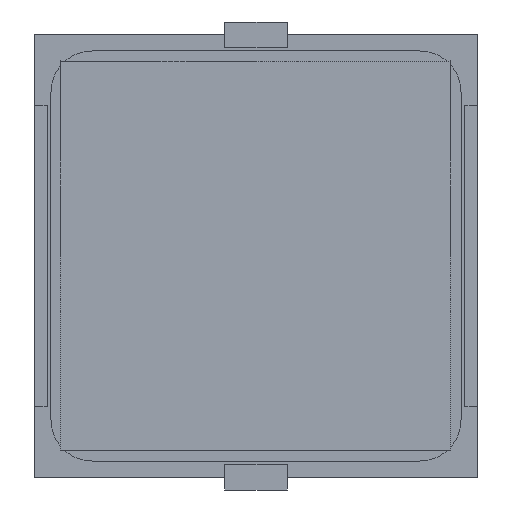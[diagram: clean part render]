
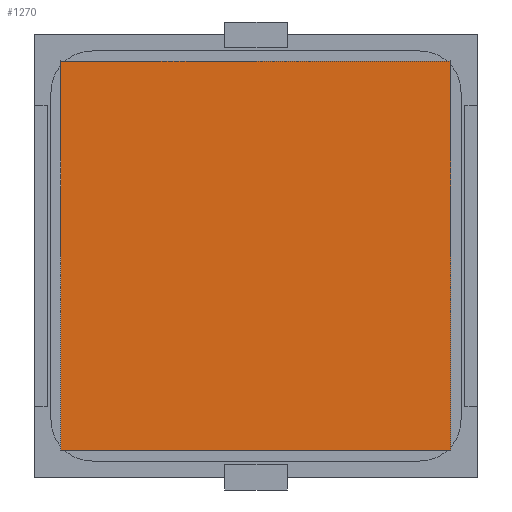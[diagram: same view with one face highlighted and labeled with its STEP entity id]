
A CAD part, front view. The second image highlights one B-rep face of the part: STEP entity #1270.
In plain terms, the highlighted planar face has unit normal (0, -1, 0).
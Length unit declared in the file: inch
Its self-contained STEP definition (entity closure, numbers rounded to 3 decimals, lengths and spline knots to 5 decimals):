
#41 = EDGE_CURVE ( 'NONE', #6520, #5416, #2081, .T. ) ;
#758 = CARTESIAN_POINT ( 'NONE',  ( -0.61024, -0.005, 0.61024 ) ) ;
#788 = VECTOR ( 'NONE', #1537, 39.37008 ) ;
#808 = CARTESIAN_POINT ( 'NONE',  ( -0.61024, -0.005, -0.61024 ) ) ;
#877 = CARTESIAN_POINT ( 'NONE',  ( 0.61024, -0.005, 0.61024 ) ) ;
#1030 = CARTESIAN_POINT ( 'NONE',  ( -0.61024, -0.005, -0.61024 ) ) ;
#1064 = EDGE_CURVE ( 'NONE', #4529, #6520, #2094, .T. ) ;
#1270 = ADVANCED_FACE ( 'NONE', ( #4205 ), #2926, .F. ) ;
#1464 = DIRECTION ( 'NONE',  ( 0., 0., 1. ) ) ;
#1537 = DIRECTION ( 'NONE',  ( -1., 0., 0. ) ) ;
#1654 = EDGE_CURVE ( 'NONE', #5416, #7540, #3292, .T. ) ;
#1876 = CARTESIAN_POINT ( 'NONE',  ( 0.61024, -0.005, -0.61024 ) ) ;
#2081 = LINE ( 'NONE', #758, #6891 ) ;
#2094 = LINE ( 'NONE', #7363, #6440 ) ;
#2545 = VECTOR ( 'NONE', #5274, 39.37008 ) ;
#2926 = PLANE ( 'NONE',  #3480 ) ;
#3008 = DIRECTION ( 'NONE',  ( 0., 1., 0. ) ) ;
#3292 = LINE ( 'NONE', #5932, #2545 ) ;
#3374 = DIRECTION ( 'NONE',  ( 1., 0., 0. ) ) ;
#3480 = AXIS2_PLACEMENT_3D ( 'NONE', #8251, #3008, #4952 ) ;
#4205 = FACE_OUTER_BOUND ( 'NONE', #5601, .T. ) ;
#4529 = VERTEX_POINT ( 'NONE', #1030 ) ;
#4952 = DIRECTION ( 'NONE',  ( 0., 0., 1. ) ) ;
#5124 = EDGE_CURVE ( 'NONE', #7540, #4529, #6669, .T. ) ;
#5274 = DIRECTION ( 'NONE',  ( 0., 0., -1. ) ) ;
#5416 = VERTEX_POINT ( 'NONE', #877 ) ;
#5601 = EDGE_LOOP ( 'NONE', ( #7358, #7528, #7187, #6249 ) ) ;
#5779 = CARTESIAN_POINT ( 'NONE',  ( -0.61024, -0.005, 0.61024 ) ) ;
#5932 = CARTESIAN_POINT ( 'NONE',  ( 0.61024, -0.005, -0.61024 ) ) ;
#6249 = ORIENTED_EDGE ( 'NONE', *, *, #41, .F. ) ;
#6440 = VECTOR ( 'NONE', #1464, 39.37008 ) ;
#6520 = VERTEX_POINT ( 'NONE', #5779 ) ;
#6669 = LINE ( 'NONE', #808, #788 ) ;
#6891 = VECTOR ( 'NONE', #3374, 39.37008 ) ;
#7187 = ORIENTED_EDGE ( 'NONE', *, *, #1654, .F. ) ;
#7358 = ORIENTED_EDGE ( 'NONE', *, *, #1064, .F. ) ;
#7363 = CARTESIAN_POINT ( 'NONE',  ( -0.61024, -0.005, -0.61024 ) ) ;
#7528 = ORIENTED_EDGE ( 'NONE', *, *, #5124, .F. ) ;
#7540 = VERTEX_POINT ( 'NONE', #1876 ) ;
#8251 = CARTESIAN_POINT ( 'NONE',  ( -0.61024, -0.005, 0.61024 ) ) ;
